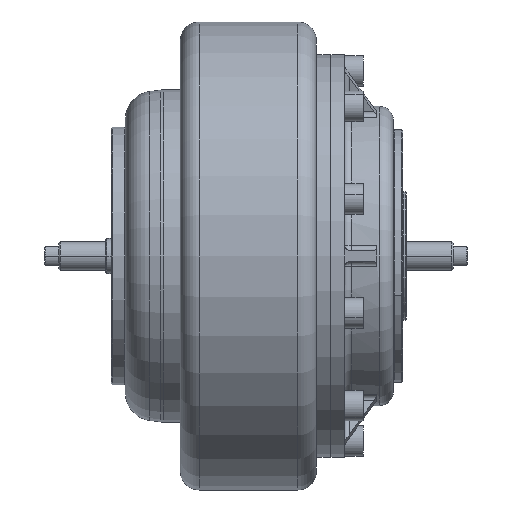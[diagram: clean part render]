
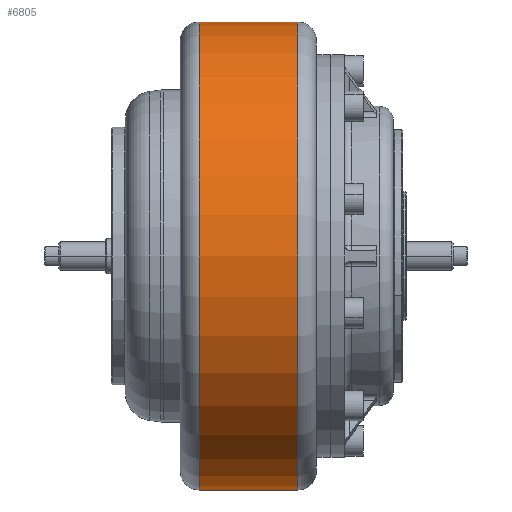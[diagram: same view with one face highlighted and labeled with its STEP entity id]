
A CAD part, front view. The second image highlights one B-rep face of the part: STEP entity #6805.
In plain terms, the highlighted cylindrical face has radius 100 mm (diameter 200 mm), a partial arc.
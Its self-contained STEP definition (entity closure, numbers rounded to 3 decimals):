
#25 = DIRECTION ( 'NONE',  ( 0., 0., 1. ) ) ;
#781 = DIRECTION ( 'NONE',  ( 0., 0., -1. ) ) ;
#953 = VERTEX_POINT ( 'NONE', #5203 ) ;
#1968 = VECTOR ( 'NONE', #7461, 1000. ) ;
#3099 = CARTESIAN_POINT ( 'NONE',  ( -8.6, 0., -100. ) ) ;
#4020 = LINE ( 'NONE', #6025, #1968 ) ;
#4064 = DIRECTION ( 'NONE',  ( -1., 0., 0. ) ) ;
#4368 = ORIENTED_EDGE ( 'NONE', *, *, #11180, .T. ) ;
#4469 = VECTOR ( 'NONE', #11900, 1000. ) ;
#4600 = AXIS2_PLACEMENT_3D ( 'NONE', #11730, #4064, #6680 ) ;
#5203 = CARTESIAN_POINT ( 'NONE',  ( 33.6, 0., -100. ) ) ;
#5863 = VERTEX_POINT ( 'NONE', #12080 ) ;
#6025 = CARTESIAN_POINT ( 'NONE',  ( -16.6, 0., -100. ) ) ;
#6634 = CARTESIAN_POINT ( 'NONE',  ( -16.6, 0., 100. ) ) ;
#6680 = DIRECTION ( 'NONE',  ( 0., 0., 1. ) ) ;
#6805 = ADVANCED_FACE ( 'NONE', ( #12270 ), #11255, .T. ) ;
#7007 = ORIENTED_EDGE ( 'NONE', *, *, #15506, .T. ) ;
#7180 = DIRECTION ( 'NONE',  ( 1., 0., 0. ) ) ;
#7461 = DIRECTION ( 'NONE',  ( -1., 0., 0. ) ) ;
#8047 = EDGE_CURVE ( 'NONE', #953, #12647, #4020, .T. ) ;
#8449 = LINE ( 'NONE', #6634, #4469 ) ;
#8687 = EDGE_CURVE ( 'NONE', #953, #14513, #11397, .T. ) ;
#9588 = EDGE_LOOP ( 'NONE', ( #15760, #12423, #7007, #4368 ) ) ;
#9699 = CIRCLE ( 'NONE', #11677, 100. ) ;
#11180 = EDGE_CURVE ( 'NONE', #5863, #12647, #9699, .T. ) ;
#11255 = CYLINDRICAL_SURFACE ( 'NONE', #13720, 100. ) ;
#11397 = CIRCLE ( 'NONE', #4600, 100. ) ;
#11677 = AXIS2_PLACEMENT_3D ( 'NONE', #13489, #7180, #781 ) ;
#11730 = CARTESIAN_POINT ( 'NONE',  ( 33.6, 0., 0. ) ) ;
#11900 = DIRECTION ( 'NONE',  ( -1., 0., 0. ) ) ;
#12080 = CARTESIAN_POINT ( 'NONE',  ( -8.6, 0., 100. ) ) ;
#12270 = FACE_OUTER_BOUND ( 'NONE', #9588, .T. ) ;
#12423 = ORIENTED_EDGE ( 'NONE', *, *, #8687, .T. ) ;
#12647 = VERTEX_POINT ( 'NONE', #3099 ) ;
#12792 = CARTESIAN_POINT ( 'NONE',  ( -16.6, 0., 0. ) ) ;
#13284 = CARTESIAN_POINT ( 'NONE',  ( 33.6, 0., 100. ) ) ;
#13489 = CARTESIAN_POINT ( 'NONE',  ( -8.6, 0., 0. ) ) ;
#13720 = AXIS2_PLACEMENT_3D ( 'NONE', #12792, #14093, #25 ) ;
#14093 = DIRECTION ( 'NONE',  ( -1., 0., 0. ) ) ;
#14513 = VERTEX_POINT ( 'NONE', #13284 ) ;
#15506 = EDGE_CURVE ( 'NONE', #14513, #5863, #8449, .T. ) ;
#15760 = ORIENTED_EDGE ( 'NONE', *, *, #8047, .F. ) ;
